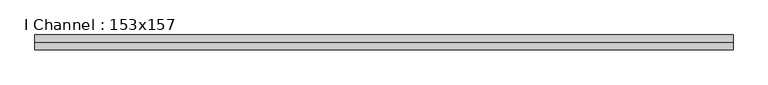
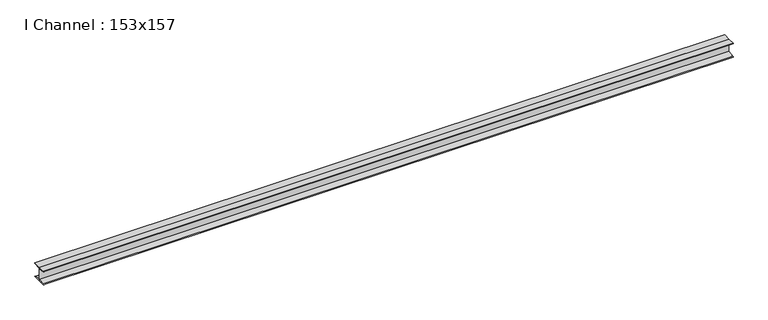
"""IFC4 building model written with IfcOpenShell, lengths in millimetres: beam geometry, I Channel : 153x157."""

from ifc_helpers import new_model, si_unit, point, frame, frame_2d, origin, place, context, project, spatial, polyline, circle_curve, trimmed, segment, composite_curve, outline, extrude, source, transform, mapped, element, save


def i_channel_153x157_b665bd47(model_context):
    return source(origin(), model_context, "Body", "SweptSolid", [
        extrude(outline(composite_curve([segment(polyline([(0.0, 76.5), (78.5, 76.5)]), True, "CONTINUOUS"), segment(trimmed(circle_curve(frame_2d((71.0, 76.5)), 7.5), [point((78.5, 76.5))], [point((71.0, 69.0))], False, "CARTESIAN"), True, "CONTINUOUS"), segment(polyline([(71.0, 69.0), (3.2, 58.2615349), (3.2, -58.2615349), (71.0, -69.0)]), True, "CONTINUOUS"), segment(trimmed(circle_curve(frame_2d((71.0, -76.5)), 7.5), [point((71.0, -69.0))], [point((78.5, -76.5))], False, "CARTESIAN"), True, "CONTINUOUS"), segment(polyline([(78.5, -76.5), (0.0, -76.5), (0.0, 76.5)]), True, "CONTINUOUS")], self_intersect=False)), frame((-3040.6504743, 0.0, 0.0), z_axis=(1.0, 0.0, 0.0), x_axis=(0.0, 1.0, 0.0)), (0.0, 0.0, 1.0), 7293.2834147),
        extrude(outline(composite_curve([segment(polyline([(0.0, 76.5), (0.0, -76.5), (-78.5, -76.5)]), True, "CONTINUOUS"), segment(trimmed(circle_curve(frame_2d((-71.0, -76.5)), 7.5), [point((-78.5, -76.5))], [point((-71.0, -69.0))], False, "CARTESIAN"), True, "CONTINUOUS"), segment(polyline([(-71.0, -69.0), (-3.2, -58.2615349), (-3.2, 58.2615349), (-71.0, 69.0)]), True, "CONTINUOUS"), segment(trimmed(circle_curve(frame_2d((-71.0, 76.5)), 7.5), [point((-71.0, 69.0))], [point((-78.5, 76.5))], False, "CARTESIAN"), True, "CONTINUOUS"), segment(polyline([(-78.5, 76.5), (0.0, 76.5)]), True, "CONTINUOUS")], self_intersect=False)), frame((-3040.6504743, 0.0, 0.0), z_axis=(1.0, 0.0, 0.0), x_axis=(0.0, 1.0, 0.0)), (0.0, 0.0, 1.0), 7293.2834147),
    ])


if __name__ == "__main__":
    model = new_model("IFC4")
    model_context = context("Model", 3, world=origin())
    ifc_project = project(units=[si_unit("LENGTHUNIT", "METRE", prefix="MILLI")], contexts=[model_context])
    site = spatial("IfcSite", under=ifc_project)
    building = spatial("IfcBuilding", under=site)
    placement = place(None, origin())
    i_channel_153x157_shape = i_channel_153x157_b665bd47(model_context)
    element("IfcBeam", 1, ObjectType="I Channel : 153x157", at=placement, inside=building, context=model_context, shape_type="MappedRepresentation", body=[
        mapped(i_channel_153x157_shape, transform((0.0, 0.0, 0.0), x_axis=(1.0, 0.0, 0.0), y_axis=(0.0, 1.0, 0.0), z_axis=(0.0, 0.0, 1.0))),
    ])
    save(model, "model.ifc")
